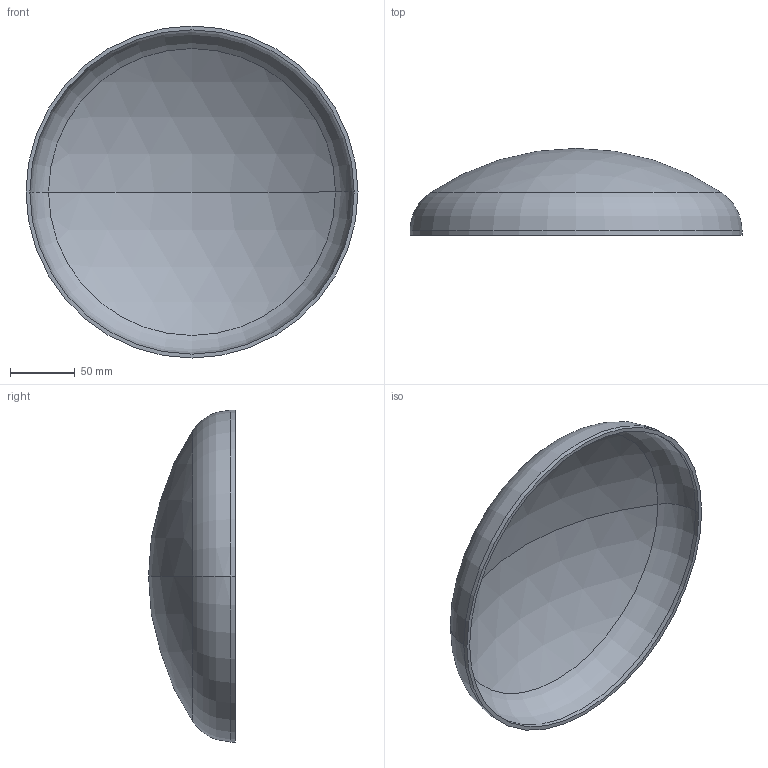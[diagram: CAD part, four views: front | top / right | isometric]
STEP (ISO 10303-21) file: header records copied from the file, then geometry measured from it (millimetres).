
FILE_DESCRIPTION (( 'STEP AP203' ), '1' );
FILE_NAME ('3D_R365_256x3_173371360.STEP', '2024-07-16T06:46:05', ( '' ), ( '' ), 'SwSTEP 2.0', 'SolidWorks 2024', '' );
FILE_SCHEMA (( 'CONFIG_CONTROL_DESIGN' ));
Length unit declared in the file: millimetre
Products named in the file (1): 3D_R365_256x3_173371360
Bounding box: 256 x 67 x 256 mm (x, y, z)
Volume: 212190.1 mm3; surface area: 143863.3 mm2
Topology: 1 solids, 1 shells, 13 faces, 24 edges, 14 vertices
Faces by surface type: sphere 4, torus 4, cylinder 4, plane 1
Entity records: 407 total; most frequent: DIRECTION 72, CARTESIAN_POINT 52, ORIENTED_EDGE 48, AXIS2_PLACEMENT_3D 34, EDGE_CURVE 24, CIRCLE 20, VERTEX_POINT 14, EDGE_LOOP 14
